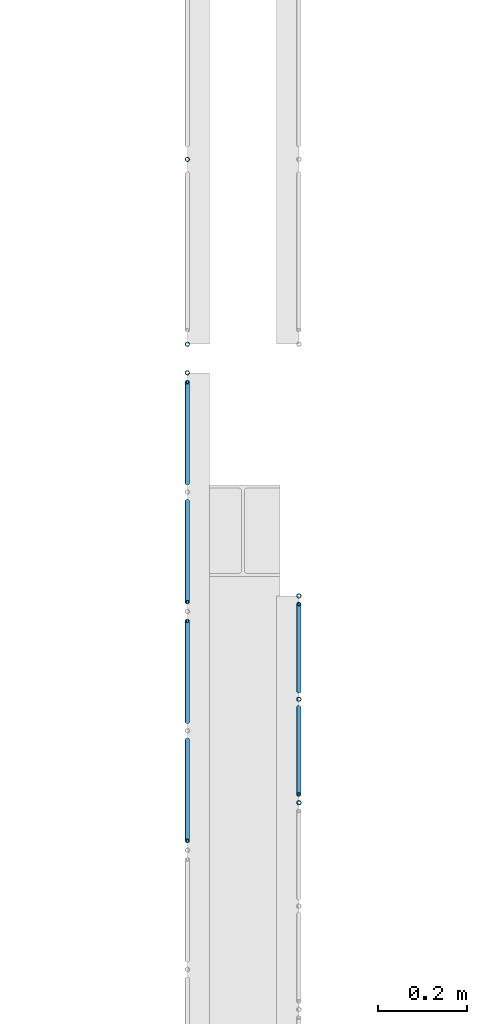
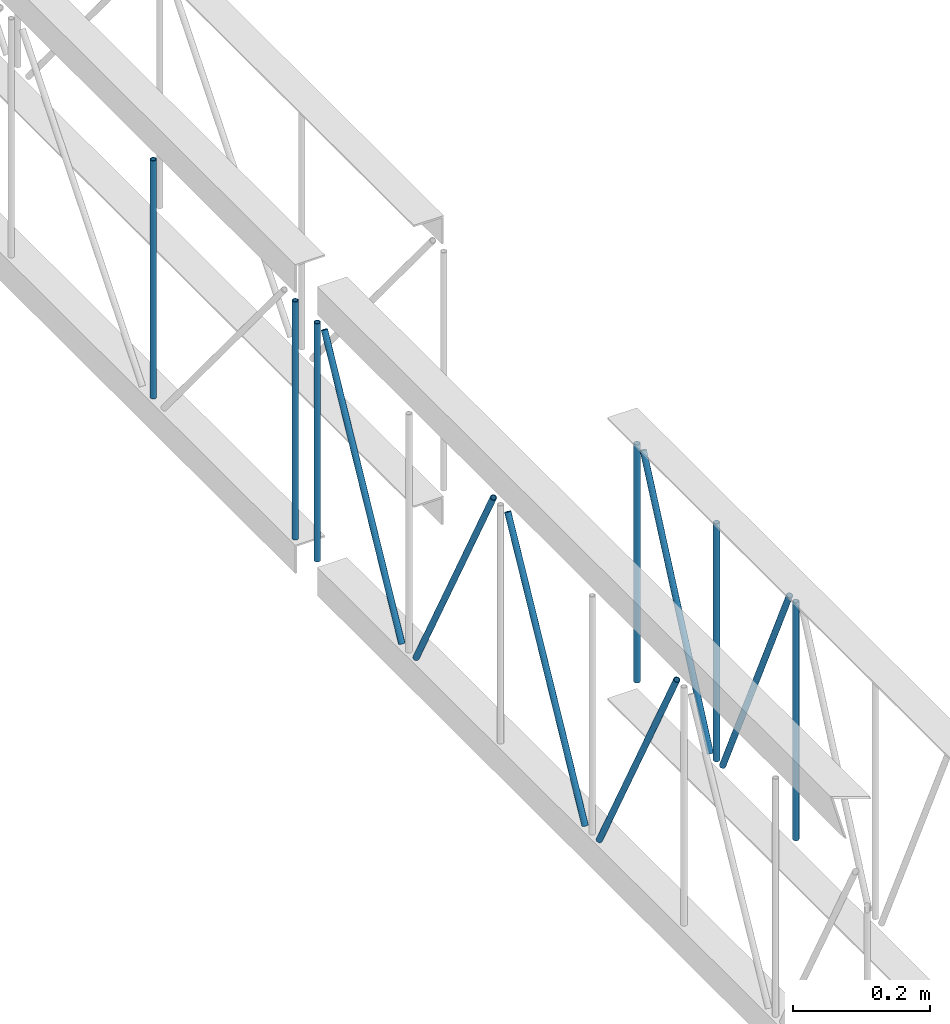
# One storey, part 54 of 153: 12 members, 3 elements without a shape of their own.
"""IFC4 building model written with IfcOpenShell, lengths in metres."""

import ifcopenshell
import ifcopenshell.guid

model = None  # the IFC model being written
_history = None  # IfcOwnerHistory: only IFC2X3 demands one
_inside = {}  # id of a spatial element -> (the spatial element, [elements in it])
_under = {}  # id of a project, library or spatial element -> (it, [spatial elements below it])
_declared = {}  # id of a project -> (the project, [libraries it declares])
_typed = {}  # id of a type object -> (the type object, [elements of that type])
_made_of = {}  # id of a material, layer set ... -> (it, [elements and type objects made of it])


def new_model(schema):
    """Start an empty IFC model of exactly this schema.

    Asked for "IFC4X3", IfcOpenShell would pick the latest addendum, in which some entities
    have other attributes; the version numbers below select the first issue.
    IFC2X3 requires an IfcOwnerHistory on every rooted entity: one is made here for all.
    """
    global model, _history
    if schema == "IFC4X3":
        model = ifcopenshell.file(schema_version=(4, 3, 0, 0))
    else:
        model = ifcopenshell.file(schema=schema)
    _inside.clear()
    _under.clear()
    _declared.clear()
    _typed.clear()
    _made_of.clear()
    _history = None
    if model.schema == "IFC2X3":
        org = make("IfcOrganization", Name="unknown")
        user = make(
            "IfcPersonAndOrganization",
            ThePerson=make("IfcPerson", FamilyName="unknown"),
            TheOrganization=org,
        )
        app = make(
            "IfcApplication",
            ApplicationDeveloper=org,
            Version="unknown",
            ApplicationFullName="unknown",
            ApplicationIdentifier="unknown",
        )
        _history = make(
            "IfcOwnerHistory",
            OwningUser=user,
            OwningApplication=app,
            ChangeAction="ADDED",
            CreationDate=0,
        )
    return model


def make(cls, **values):
    """One entity of the class cls with the attributes given. An attribute that is None is left unset."""
    return model.create_entity(
        cls, **{name: value for name, value in values.items() if value is not None}
    )


def entity(cls, *values):
    """Any entity or typed value of the class cls, its attributes in the order of the schema. None: left unset."""
    e = model.create_entity(cls)
    for i, value in enumerate(values):
        if value is not None:
            e[i] = value
    return e


def rooted(cls, **values):
    """An entity with a GlobalId (a new one), such as an element, a storey or a relation."""
    return make(cls, GlobalId=ifcopenshell.guid.new(), OwnerHistory=_history, **values)


def si_unit(unit_type, name, prefix=None):
    """IfcSIUnit, for example si_unit("LENGTHUNIT", "METRE", prefix="MILLI")."""
    return make("IfcSIUnit", UnitType=unit_type, Prefix=prefix, Name=name)


def converted_unit(unit_type, name, factor, base, dimensions=None, offset=None):
    """IfcConversionBasedUnit, such as the inch: factor (a typed value) times the base unit."""
    return make(
        "IfcConversionBasedUnit"
        if offset is None
        else "IfcConversionBasedUnitWithOffset",
        ConversionOffset=offset,
        Dimensions=None
        if dimensions is None
        else entity("IfcDimensionalExponents", *dimensions),
        UnitType=unit_type,
        Name=name,
        ConversionFactor=make(
            "IfcMeasureWithUnit", ValueComponent=factor, UnitComponent=base
        ),
    )


def derived_unit(unit_type, elements):
    """IfcDerivedUnit: a product of units, each with its exponent."""
    return make(
        "IfcDerivedUnit",
        Elements=[
            make("IfcDerivedUnitElement", Unit=unit, Exponent=power)
            for unit, power in elements
        ],
        UnitType=unit_type,
    )


def assignment(units):
    """IfcUnitAssignment: the units of a project."""
    return None if units is None else make("IfcUnitAssignment", Units=units)


def point(xyz):
    """IfcCartesianPoint."""
    return None if xyz is None else make("IfcCartesianPoint", Coordinates=xyz)


def direction(xyz):
    """IfcDirection."""
    return None if xyz is None else make("IfcDirection", DirectionRatios=xyz)


def frame(location, z_axis=None, x_axis=None):
    """IfcAxis2Placement3D, a coordinate frame: its origin and axes. An axis left out is left unset."""
    return make(
        "IfcAxis2Placement3D",
        Location=point(location),
        Axis=direction(z_axis),
        RefDirection=direction(x_axis),
    )


def origin():
    """The frame at (0, 0, 0) with its axes left unset."""
    return frame((0.0, 0.0, 0.0))


def place(relative_to, where):
    """IfcLocalPlacement: puts the frame where relative to a parent placement (None: the world)."""
    return make(
        "IfcLocalPlacement", PlacementRelTo=relative_to, RelativePlacement=where
    )


def context(
    kind, dimensions, precision=None, world=None, true_north=None, identifier=None
):
    """IfcGeometricRepresentationContext, for example the 3D "Model" context."""
    return make(
        "IfcGeometricRepresentationContext",
        ContextIdentifier=identifier,
        ContextType=kind,
        CoordinateSpaceDimension=dimensions,
        Precision=precision,
        WorldCoordinateSystem=world,
        TrueNorth=true_north,
    )


def subcontext(parent, identifier, kind, view, scale=None):
    """IfcGeometricRepresentationSubContext, for example "Body" below "Model"."""
    return make(
        "IfcGeometricRepresentationSubContext",
        ContextIdentifier=identifier,
        ContextType=kind,
        ParentContext=parent,
        TargetScale=scale,
        TargetView=view,
    )


def project(units=None, contexts=None):
    """IfcProject with its units and contexts."""
    return rooted(
        "IfcProject",
        Name="project",
        RepresentationContexts=contexts,
        UnitsInContext=assignment(units),
    )


def spatial(cls, under=None, at=None, **own):
    """A site, building, storey or space (cls), placed at a placement, below another one or the project."""
    s = rooted(cls, ObjectPlacement=at, **own)
    if under is not None:
        _under.setdefault(under.id(), (under, []))[1].append(s)
    return s


def point_list(points):
    """IfcCartesianPointList2D or 3D."""
    cls = (
        "IfcCartesianPointList2D" if len(points[0]) == 2 else "IfcCartesianPointList3D"
    )
    return make(cls, CoordList=points)


def arc(*indices):
    """IfcArcIndex: an arc through three numbered points of an indexed curve."""
    return model.create_entity("IfcArcIndex", indices)


def indexed_curve(points, segments=None, self_intersect=None):
    """IfcIndexedPolyCurve: lines and arcs through numbered points (the first is 1)."""
    return make(
        "IfcIndexedPolyCurve",
        Points=point_list(points),
        Segments=segments,
        SelfIntersect=self_intersect,
    )


def outline(outer, holes=None, kind="AREA"):
    """IfcArbitraryClosedProfileDef: a profile drawn as a closed curve; with holes, ...WithVoids."""
    if holes is None:
        return make("IfcArbitraryClosedProfileDef", ProfileType=kind, OuterCurve=outer)
    return make(
        "IfcArbitraryProfileDefWithVoids",
        ProfileType=kind,
        OuterCurve=outer,
        InnerCurves=holes,
    )


def extrude(swept, where, along, depth):
    """IfcExtrudedAreaSolid: the profile swept, set in the frame where, extruded along a direction by depth."""
    return make(
        "IfcExtrudedAreaSolid",
        SweptArea=swept,
        Position=where,
        ExtrudedDirection=direction(along),
        Depth=depth,
    )


def shape(context_of_items, identifier, shape_type, items):
    """IfcShapeRepresentation: the items that make up one representation, for example the "Body"."""
    return make(
        "IfcShapeRepresentation",
        ContextOfItems=context_of_items,
        RepresentationIdentifier=identifier,
        RepresentationType=shape_type,
        Items=items,
    )


def source(mapping_origin, context_of_items, identifier, shape_type, items):
    """IfcRepresentationMap: a shape defined once, which mapped items show again and again."""
    return make(
        "IfcRepresentationMap",
        MappingOrigin=mapping_origin,
        MappedRepresentation=shape(context_of_items, identifier, shape_type, items),
    )


def transform(
    local_origin,
    x_axis=None,
    y_axis=None,
    z_axis=None,
    scale=None,
    scale2=None,
    scale3=None,
    uniform=True,
):
    """IfcCartesianTransformationOperator3D, or its non-uniform kind. x_axis, y_axis, z_axis: its Axis1, 2, 3."""
    if uniform:
        return make(
            "IfcCartesianTransformationOperator3D",
            Axis1=direction(x_axis),
            Axis2=direction(y_axis),
            LocalOrigin=point(local_origin),
            Scale=scale,
            Axis3=direction(z_axis),
        )
    return make(
        "IfcCartesianTransformationOperator3DnonUniform",
        Axis1=direction(x_axis),
        Axis2=direction(y_axis),
        LocalOrigin=point(local_origin),
        Scale=scale,
        Axis3=direction(z_axis),
        Scale2=scale2,
        Scale3=scale3,
    )


def mapped(mapping_source, mapping_target):
    """IfcMappedItem: shows the shape of a source again, moved by a transform."""
    return make(
        "IfcMappedItem", MappingSource=mapping_source, MappingTarget=mapping_target
    )


def material(Name=None, Category=None):
    """IfcMaterial."""
    return make("IfcMaterial", Name=Name, Category=Category)


def made_of(thing, what):
    """Note that an element or type object is made of a material, layer set ...; save() writes the relation."""
    if what is not None:
        _made_of.setdefault(what.id(), (what, []))[1].append(thing)
    return thing


def type_object(cls, material=None, **own):
    """A type object (cls), such as IfcWallType, which elements share."""
    return made_of(rooted(cls, **own), material)


def type_shapes(of_type, sources):
    """Give a type object the sources (RepresentationMaps) that its elements show as mapped items."""
    of_type.RepresentationMaps = sources


def element(
    cls,
    number,
    at=None,
    inside=None,
    cuts=None,
    type_object=None,
    material=None,
    context=None,
    identifier="Body",
    shape_type=None,
    held_by="IfcProductDefinitionShape",
    body=None,
    shapes=None,
    **own,
):
    """One element of the class cls, such as IfcWall. Its Tag is "e" and its number.

    at: its placement. inside: the storey or other place that contains it. cuts: it is an
    opening in that element (IfcRelVoidsElement). A single representation is given by context,
    identifier, shape_type and body (its items); several are given by shapes. held_by: the class
    of the entity that holds the representations. save() writes the other relations.
    """
    e = rooted(cls, Tag="e%d" % number, ObjectPlacement=at, **own)
    if body is not None:
        shapes = [shape(context, identifier, shape_type, body)]
    if shapes is not None:
        e.Representation = make(held_by, Representations=shapes)
    if inside is not None:
        _inside.setdefault(inside.id(), (inside, []))[1].append(e)
    if cuts is not None:
        rooted(
            "IfcRelVoidsElement", RelatingBuildingElement=cuts, RelatedOpeningElement=e
        )
    if type_object is not None:
        _typed.setdefault(type_object.id(), (type_object, []))[1].append(e)
    return made_of(e, material)


def aggregate(whole, parts):
    """IfcRelAggregates: a whole, such as a stair, and the parts it consists of."""
    return rooted("IfcRelAggregates", RelatingObject=whole, RelatedObjects=parts)


def save(model, path):
    """Write the relations noted so far, then the file.

    IfcRelAggregates (storeys below a building ...), IfcRelContainedInSpatialStructure (elements
    in a storey), IfcRelDefinesByType, IfcRelAssociatesMaterial and IfcRelDeclares: one each for
    every whole, place, type object, material and project.
    """
    for whole, parts in _under.values():
        aggregate(whole, parts)
    for where, things in _inside.values():
        rooted(
            "IfcRelContainedInSpatialStructure",
            RelatedElements=things,
            RelatingStructure=where,
        )
    for kind, things in _typed.values():
        rooted("IfcRelDefinesByType", RelatedObjects=things, RelatingType=kind)
    for what, things in _made_of.values():
        rooted("IfcRelAssociatesMaterial", RelatedObjects=things, RelatingMaterial=what)
    for by, libraries in _declared.values():
        rooted("IfcRelDeclares", RelatingContext=by, RelatedDefinitions=libraries)
    model.write(path)


model = new_model("IFC4")

# Units and contexts
model_context = context("Model", 3, precision=1e-05, world=origin(), true_north=direction((6.123031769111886e-17, 1.0)))
body_context = subcontext(model_context, "Body", "Model", "MODEL_VIEW")
ifc_project = project(units=[si_unit("LENGTHUNIT", "METRE"), si_unit("AREAUNIT", "SQUARE_METRE"), si_unit("VOLUMEUNIT", "CUBIC_METRE"), converted_unit("PLANEANGLEUNIT", "DEGREE", entity("IfcRatioMeasure", 0.017453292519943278), si_unit("PLANEANGLEUNIT", "RADIAN"), dimensions=[0, 0, 0, 0, 0, 0, 0]), si_unit("MASSUNIT", "GRAM", prefix="KILO"), derived_unit("MASSDENSITYUNIT", [(si_unit("MASSUNIT", "GRAM", prefix="KILO"), 1), (si_unit("LENGTHUNIT", "METRE"), -3)]), derived_unit("MOMENTOFINERTIAUNIT", [(si_unit("LENGTHUNIT", "METRE"), 4)]), si_unit("TIMEUNIT", "SECOND"), si_unit("FREQUENCYUNIT", "HERTZ"), si_unit("THERMODYNAMICTEMPERATUREUNIT", "DEGREE_CELSIUS"), derived_unit("THERMALTRANSMITTANCEUNIT", [(si_unit("MASSUNIT", "GRAM", prefix="KILO"), 1), (si_unit("THERMODYNAMICTEMPERATUREUNIT", "KELVIN"), -1), (si_unit("TIMEUNIT", "SECOND"), -3)]), derived_unit("VOLUMETRICFLOWRATEUNIT", [(si_unit("LENGTHUNIT", "METRE"), 3), (si_unit("TIMEUNIT", "SECOND"), -1)]), derived_unit("MASSFLOWRATEUNIT", [(si_unit("MASSUNIT", "GRAM", prefix="KILO"), 1), (si_unit("TIMEUNIT", "SECOND"), -1)]), derived_unit("ROTATIONALFREQUENCYUNIT", [(si_unit("TIMEUNIT", "SECOND"), -1)]), si_unit("ELECTRICCURRENTUNIT", "AMPERE"), si_unit("ELECTRICVOLTAGEUNIT", "VOLT"), si_unit("POWERUNIT", "WATT"), si_unit("FORCEUNIT", "NEWTON", prefix="KILO"), si_unit("ILLUMINANCEUNIT", "LUX"), si_unit("LUMINOUSFLUXUNIT", "LUMEN"), si_unit("LUMINOUSINTENSITYUNIT", "CANDELA"), derived_unit("USERDEFINED", [(si_unit("MASSUNIT", "GRAM", prefix="KILO"), -1), (si_unit("LENGTHUNIT", "METRE"), -2), (si_unit("TIMEUNIT", "SECOND"), 3), (si_unit("LUMINOUSFLUXUNIT", "LUMEN"), 1)]), derived_unit("SOUNDPOWERUNIT", [(si_unit("MASSUNIT", "GRAM", prefix="KILO"), 1), (si_unit("LENGTHUNIT", "METRE"), 2), (si_unit("TIMEUNIT", "SECOND"), -3)]), derived_unit("SOUNDPRESSUREUNIT", [(si_unit("MASSUNIT", "GRAM", prefix="KILO"), 1), (si_unit("LENGTHUNIT", "METRE"), -1), (si_unit("TIMEUNIT", "SECOND"), -2)]), derived_unit("LINEARVELOCITYUNIT", [(si_unit("LENGTHUNIT", "METRE"), 1), (si_unit("TIMEUNIT", "SECOND"), -1)]), si_unit("PRESSUREUNIT", "PASCAL"), derived_unit("USERDEFINED", [(si_unit("LENGTHUNIT", "METRE"), -2), (si_unit("MASSUNIT", "GRAM", prefix="KILO"), 1), (si_unit("TIMEUNIT", "SECOND"), -2)]), derived_unit("LINEARFORCEUNIT", [(si_unit("MASSUNIT", "GRAM", prefix="KILO"), 1), (si_unit("LENGTHUNIT", "METRE"), 1), (si_unit("TIMEUNIT", "SECOND"), -2), (si_unit("LENGTHUNIT", "METRE"), -1)]), derived_unit("PLANARFORCEUNIT", [(si_unit("MASSUNIT", "GRAM", prefix="KILO"), 1), (si_unit("LENGTHUNIT", "METRE"), 1), (si_unit("TIMEUNIT", "SECOND"), -2), (si_unit("LENGTHUNIT", "METRE"), -2)])], contexts=[model_context])

# Site, building, storey
site_placement = place(None, origin())
site = spatial("IfcSite", under=ifc_project, at=site_placement, Name="Superficie", CompositionType="ELEMENT")
building_placement = place(site_placement, origin())
building = spatial("IfcBuilding", under=site, at=building_placement, CompositionType="ELEMENT")
storey_placement = place(building_placement, frame((0.0, 0.0, 3.5999999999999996)))
storey = spatial("IfcBuildingStorey", under=building, at=storey_placement, Name="Nivel 1", CompositionType="ELEMENT", Elevation=3.5999999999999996)

# Assembly, members
assembly_1_placement = place(storey_placement, origin())
assembly_1 = element("IfcElementAssembly", 1, at=assembly_1_placement, inside=storey, Name="Viga de celosia 13:Viga de celosia 13", ObjectType="Viga de celosia 13:Viga de celosia 13", AssemblyPlace="NOTDEFINED", PredefinedType="TRUSS")
ifc_material = material(Name="Metal - Calibre delgado", Category="Metal")
member_type_1 = type_object("IfcMemberType", Name="HSS-Tubo estructural redondo:HSS 0.01", PredefinedType="BRACE", material=ifc_material)
shared_shape_1 = source(origin(), body_context, "Body", "SweptSolid", [
    extrude(outline(indexed_curve([(-0.005000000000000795, 7.502054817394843e-18), (-9.800269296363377e-18, -0.005000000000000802), (0.005000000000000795, -7.502054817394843e-18), (8.07772287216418e-18, 0.005000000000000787)], segments=[arc(1, 2, 3), arc(3, 4, 1)], self_intersect=False), holes=[indexed_curve([(0.003999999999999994, 7.222511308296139e-17), (6.910645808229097e-17, -0.004000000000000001), (-0.003999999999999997, -1.8650054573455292e-17), (-2.9156497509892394e-17, 0.003999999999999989)], segments=[arc(1, 2, 3), arc(3, 4, 1)], self_intersect=False)]), frame((-0.21200000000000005, 0.0, 0.0), z_axis=(1.0, 0.0, 0.0), x_axis=(0.0, 1.0, 0.0)), (0.0, 0.0, 1.0), 0.4240000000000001),
])
type_shapes(member_type_1, [shared_shape_1])
member_1_placement = place(assembly_1_placement, frame((1.0367990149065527, -9.134451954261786, 0.25), z_axis=(0.0, 1.0, 0.0), x_axis=(0.0, 0.0, 1.0)))
member_1 = element("IfcMember", 2, at=member_1_placement, type_object=member_type_1, material=ifc_material, Name="HSS-Tubo estructural redondo:HSS 0.01", ObjectType="HSS-Tubo estructural redondo:HSS 0.01", PredefinedType="BRACE", context=body_context, shape_type="MappedRepresentation", body=[
    mapped(shared_shape_1, transform((0.0, 0.0, 0.0), scale=1.0)),
])
member_2_placement = place(assembly_1_placement, frame((1.0367990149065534, -8.720105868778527, 0.25), z_axis=(0.0, 1.0, 0.0), x_axis=(0.0, 0.0, 1.0)))
member_2 = element("IfcMember", 3, at=member_2_placement, type_object=member_type_1, material=ifc_material, Name="HSS-Tubo estructural redondo:HSS 0.01", ObjectType="HSS-Tubo estructural redondo:HSS 0.01", PredefinedType="BRACE", context=body_context, shape_type="MappedRepresentation", body=[
    mapped(shared_shape_1, transform((0.0, 0.0, 0.0), scale=1.0)),
])
aggregate(assembly_1, [member_1, member_2])

# Assembly, member
assembly_2_placement = place(storey_placement, origin())
assembly_2 = element("IfcElementAssembly", 4, at=assembly_2_placement, inside=storey, Name="Viga de celosia 13:Viga de celosia 13", ObjectType="Viga de celosia 13:Viga de celosia 13", AssemblyPlace="NOTDEFINED", PredefinedType="TRUSS")
member_3_placement = place(assembly_2_placement, frame((1.036799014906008, -9.198502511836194, 0.25), z_axis=(0.0, 1.0, 0.0), x_axis=(0.0, 0.0, 1.0)))
member_3 = element("IfcMember", 5, at=member_3_placement, type_object=member_type_1, material=ifc_material, Name="HSS-Tubo estructural redondo:HSS 0.01", ObjectType="HSS-Tubo estructural redondo:HSS 0.01", PredefinedType="BRACE", context=body_context, shape_type="MappedRepresentation", body=[
    mapped(shared_shape_1, transform((0.0, 0.0, 0.0), scale=1.0)),
])

# Assembly, members
assembly_3_placement = place(storey_placement, origin())
assembly_3 = element("IfcElementAssembly", 6, at=assembly_3_placement, inside=storey, Name="Viga de celosia 13:Viga de celosia 13", ObjectType="Viga de celosia 13:Viga de celosia 13", AssemblyPlace="NOTDEFINED", PredefinedType="TRUSS")
member_type_2 = type_object("IfcMemberType", Name="HSS-Tubo estructural redondo:HSS 0.01", PredefinedType="BRACE", material=ifc_material)
shared_shape_2 = source(origin(), body_context, "Body", "SweptSolid", [
    extrude(outline(indexed_curve([(-0.005000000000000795, 2.0824731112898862e-17), (-2.3122945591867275e-17, -0.005000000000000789), (0.005000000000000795, -2.08247311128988e-17), (2.14003991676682e-17, 0.005000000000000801)], segments=[arc(1, 2, 3), arc(3, 4, 1)], self_intersect=False), holes=[indexed_curve([(0.003999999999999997, -1.3094283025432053e-17), (-1.531427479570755e-18, -0.003999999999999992), (-0.004, 4.0098531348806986e-17), (4.1481388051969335e-17, 0.0039999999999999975)], segments=[arc(1, 2, 3), arc(3, 4, 1)], self_intersect=False)]), frame((-0.21200000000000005, 0.0, 0.0), z_axis=(1.0, 0.0, 0.0), x_axis=(0.0, -1.0, 0.0)), (0.0, 0.0, 1.0), 0.4240000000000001),
])
type_shapes(member_type_2, [shared_shape_2])
member_4_placement = place(assembly_3_placement, frame((1.2867990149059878, -10.16207394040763, 0.25), z_axis=(0.0, 1.0, 0.0), x_axis=(0.0, 0.0, 1.0)))
member_4 = element("IfcMember", 7, at=member_4_placement, type_object=member_type_2, material=ifc_material, Name="HSS-Tubo estructural redondo:HSS 0.01", ObjectType="HSS-Tubo estructural redondo:HSS 0.01", PredefinedType="BRACE", context=body_context, shape_type="MappedRepresentation", body=[
    mapped(shared_shape_2, transform((0.0, 0.0, 0.0), scale=1.0)),
])
member_5_placement = place(assembly_3_placement, frame((1.2867990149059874, -9.930288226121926, 0.25), z_axis=(0.0, 1.0, 0.0), x_axis=(0.0, 0.0, 1.0)))
member_5 = element("IfcMember", 8, at=member_5_placement, type_object=member_type_2, material=ifc_material, Name="HSS-Tubo estructural redondo:HSS 0.01", ObjectType="HSS-Tubo estructural redondo:HSS 0.01", PredefinedType="BRACE", context=body_context, shape_type="MappedRepresentation", body=[
    mapped(shared_shape_2, transform((0.0, 0.0, 0.0), scale=1.0)),
])
member_6_placement = place(assembly_3_placement, frame((1.286799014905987, -9.698502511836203, 0.25), z_axis=(0.0, 1.0, 0.0), x_axis=(0.0, 0.0, 1.0)))
member_6 = element("IfcMember", 9, at=member_6_placement, type_object=member_type_2, material=ifc_material, Name="HSS-Tubo estructural redondo:HSS 0.01", ObjectType="HSS-Tubo estructural redondo:HSS 0.01", PredefinedType="BRACE", context=body_context, shape_type="MappedRepresentation", body=[
    mapped(shared_shape_2, transform((0.0, 0.0, 0.0), scale=1.0)),
])

# Member
member_type_3 = type_object("IfcMemberType", Name="HSS-Tubo estructural redondo:HSS 0.01", PredefinedType="BRACE", material=ifc_material)
shared_shape_3 = source(origin(), body_context, "Body", "SweptSolid", [
    extrude(outline(indexed_curve([(-0.005000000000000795, 7.502054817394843e-18), (-9.800269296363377e-18, -0.005000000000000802), (0.005000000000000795, -7.502054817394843e-18), (8.07772287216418e-18, 0.005000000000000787)], segments=[arc(1, 2, 3), arc(3, 4, 1)], self_intersect=False), holes=[indexed_curve([(0.003999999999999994, 7.222511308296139e-17), (6.910645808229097e-17, -0.004000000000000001), (-0.003999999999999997, -1.8650054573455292e-17), (-2.9156497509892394e-17, 0.003999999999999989)], segments=[arc(1, 2, 3), arc(3, 4, 1)], self_intersect=False)]), frame((-0.23950000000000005, 0.0, 0.0), z_axis=(1.0, 0.0, 0.0), x_axis=(0.0, 1.0, 0.0)), (0.0, 0.0, 1.0), 0.4790000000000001),
])
type_shapes(member_type_3, [shared_shape_3])
member_7_placement = place(assembly_2_placement, frame((1.0367990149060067, -10.134752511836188, 0.2500000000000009), z_axis=(0.0, -0.8817419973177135, -0.4717319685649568), x_axis=(0.0, 0.4717319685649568, -0.8817419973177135)))
member_7 = element("IfcMember", 10, at=member_7_placement, type_object=member_type_3, material=ifc_material, Name="HSS-Tubo estructural redondo:HSS 0.01", ObjectType="HSS-Tubo estructural redondo:HSS 0.01", PredefinedType="BRACE", context=body_context, shape_type="MappedRepresentation", body=[
    mapped(shared_shape_3, transform((0.0, 0.0, 0.0), scale=1.0)),
])

member_8_placement = place(assembly_2_placement, frame((1.0367990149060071, -9.867252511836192, 0.24999999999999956), z_axis=(0.0, 0.881741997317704, -0.47173196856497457), x_axis=(0.0, 0.47173196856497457, 0.881741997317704)))
member_8 = element("IfcMember", 11, at=member_8_placement, type_object=member_type_3, material=ifc_material, Name="HSS-Tubo estructural redondo:HSS 0.01", ObjectType="HSS-Tubo estructural redondo:HSS 0.01", PredefinedType="BRACE", context=body_context, shape_type="MappedRepresentation", body=[
    mapped(shared_shape_3, transform((0.0, 0.0, 0.0), scale=1.0)),
])

member_9_placement = place(assembly_2_placement, frame((1.0367990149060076, -9.599752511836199, 0.2499999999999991), z_axis=(0.0, -0.881741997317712, -0.47173196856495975), x_axis=(0.0, 0.47173196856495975, -0.881741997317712)))
member_9 = element("IfcMember", 12, at=member_9_placement, type_object=member_type_3, material=ifc_material, Name="HSS-Tubo estructural redondo:HSS 0.01", ObjectType="HSS-Tubo estructural redondo:HSS 0.01", PredefinedType="BRACE", context=body_context, shape_type="MappedRepresentation", body=[
    mapped(shared_shape_3, transform((0.0, 0.0, 0.0), scale=1.0)),
])

member_10_placement = place(assembly_2_placement, frame((1.0367990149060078, -9.332252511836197, 0.24999999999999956), z_axis=(0.0, 0.8817419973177, -0.471731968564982), x_axis=(0.0, 0.471731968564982, 0.8817419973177)))
member_10 = element("IfcMember", 13, at=member_10_placement, type_object=member_type_3, material=ifc_material, Name="HSS-Tubo estructural redondo:HSS 0.01", ObjectType="HSS-Tubo estructural redondo:HSS 0.01", PredefinedType="BRACE", context=body_context, shape_type="MappedRepresentation", body=[
    mapped(shared_shape_3, transform((0.0, 0.0, 0.0), scale=1.0)),
])

aggregate(assembly_2, [member_3, member_7, member_8, member_9, member_10])

member_type_4 = type_object("IfcMemberType", Name="HSS-Tubo estructural redondo:HSS 0.01", PredefinedType="BRACE", material=ifc_material)
shared_shape_4 = source(origin(), body_context, "Body", "SweptSolid", [
    extrude(outline(indexed_curve([(-0.005000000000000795, 2.0824731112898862e-17), (-2.3122945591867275e-17, -0.005000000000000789), (0.005000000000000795, -2.08247311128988e-17), (2.14003991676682e-17, 0.005000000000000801)], segments=[arc(1, 2, 3), arc(3, 4, 1)], self_intersect=False), holes=[indexed_curve([(0.003999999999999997, -1.3094283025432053e-17), (-1.531427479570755e-18, -0.003999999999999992), (-0.004, 4.0098531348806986e-17), (4.1481388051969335e-17, 0.0039999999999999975)], segments=[arc(1, 2, 3), arc(3, 4, 1)], self_intersect=False)]), frame((-0.2325, 0.0, 0.0), z_axis=(1.0, 0.0, 0.0), x_axis=(0.0, -1.0, 0.0)), (0.0, 0.0, 1.0), 0.465),
])
type_shapes(member_type_4, [shared_shape_4])
member_11_placement = place(assembly_3_placement, frame((1.2867990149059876, -10.046181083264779, 0.25000000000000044), z_axis=(0.0, -0.9072563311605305, -0.42057811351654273), x_axis=(0.0, 0.42057811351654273, -0.9072563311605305)))
member_11 = element("IfcMember", 14, at=member_11_placement, type_object=member_type_4, material=ifc_material, Name="HSS-Tubo estructural redondo:HSS 0.01", ObjectType="HSS-Tubo estructural redondo:HSS 0.01", PredefinedType="BRACE", context=body_context, shape_type="MappedRepresentation", body=[
    mapped(shared_shape_4, transform((0.0, 0.0, 0.0), scale=1.0)),
])

member_12_placement = place(assembly_3_placement, frame((1.286799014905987, -9.814395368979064, 0.25), z_axis=(0.0, 0.9072563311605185, -0.4205781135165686), x_axis=(0.0, 0.4205781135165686, 0.9072563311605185)))
member_12 = element("IfcMember", 15, at=member_12_placement, type_object=member_type_4, material=ifc_material, Name="HSS-Tubo estructural redondo:HSS 0.01", ObjectType="HSS-Tubo estructural redondo:HSS 0.01", PredefinedType="BRACE", context=body_context, shape_type="MappedRepresentation", body=[
    mapped(shared_shape_4, transform((0.0, 0.0, 0.0), scale=1.0)),
])

aggregate(assembly_3, [member_4, member_5, member_6, member_11, member_12])

save(model, "model.ifc")
